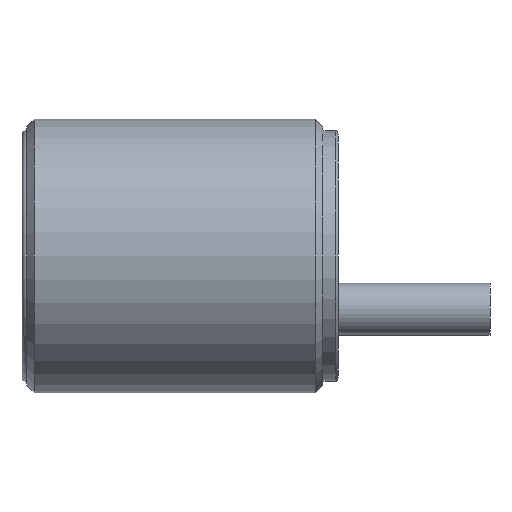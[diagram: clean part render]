
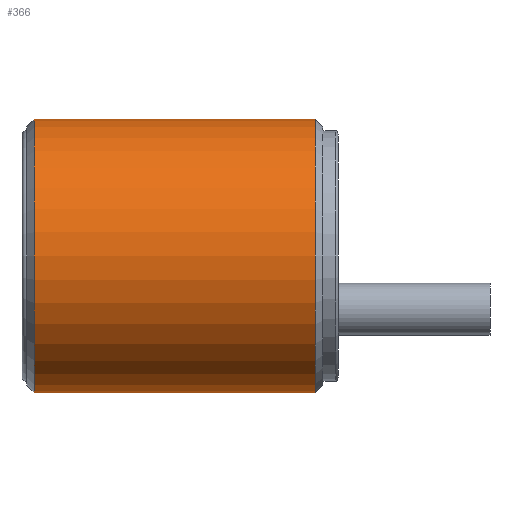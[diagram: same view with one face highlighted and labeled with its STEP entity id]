
A CAD part, front view. The second image highlights one B-rep face of the part: STEP entity #366.
In plain terms, the highlighted cylindrical face has radius 9 mm (diameter 18 mm), a full revolution.
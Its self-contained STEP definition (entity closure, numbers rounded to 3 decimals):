
#332=CARTESIAN_POINT('',(59.99,0.0,9.));
#333=VERTEX_POINT('',#332);
#334=CARTESIAN_POINT('',(59.99,0.0,0.));
#335=DIRECTION('',(-1.0,0.0,0.0));
#336=DIRECTION('',(0.0,0.0,1.0));
#337=AXIS2_PLACEMENT_3D('',#334,#335,#336);
#338=CIRCLE('',#337,9.);
#339=EDGE_CURVE('',#333,#333,#338,.T.);
#347=CARTESIAN_POINT('',(50.74,0.0,0.));
#348=DIRECTION('',(-1.0,0.0,0.));
#349=DIRECTION('',(0.0,0.0,1.0));
#350=AXIS2_PLACEMENT_3D('',#347,#348,#349);
#351=CYLINDRICAL_SURFACE('',#350,9.);
#352=CARTESIAN_POINT('',(41.49,0.0,9.));
#353=VERTEX_POINT('',#352);
#354=CARTESIAN_POINT('',(41.49,0.0,0.));
#355=DIRECTION('',(-1.0,0.0,0.0));
#356=DIRECTION('',(0.0,0.0,1.0));
#357=AXIS2_PLACEMENT_3D('',#354,#355,#356);
#358=CIRCLE('',#357,9.);
#359=EDGE_CURVE('',#353,#353,#358,.T.);
#360=ORIENTED_EDGE('',*,*,#359,.F.);
#361=EDGE_LOOP('',(#360));
#362=FACE_OUTER_BOUND('',#361,.T.);
#363=ORIENTED_EDGE('',*,*,#339,.T.);
#364=EDGE_LOOP('',(#363));
#365=FACE_BOUND('',#364,.T.);
#366=ADVANCED_FACE('',(#362,#365),#351,.T.);
